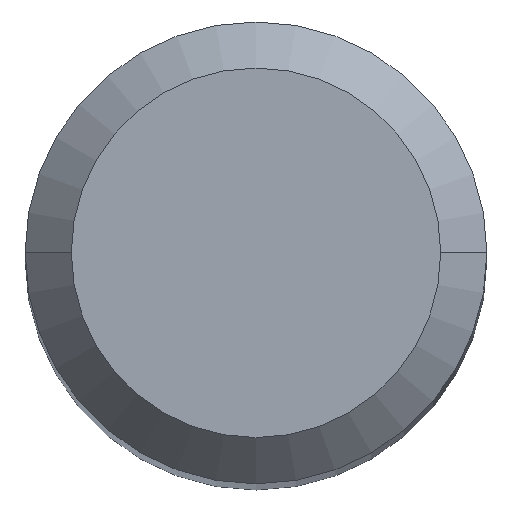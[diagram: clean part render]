
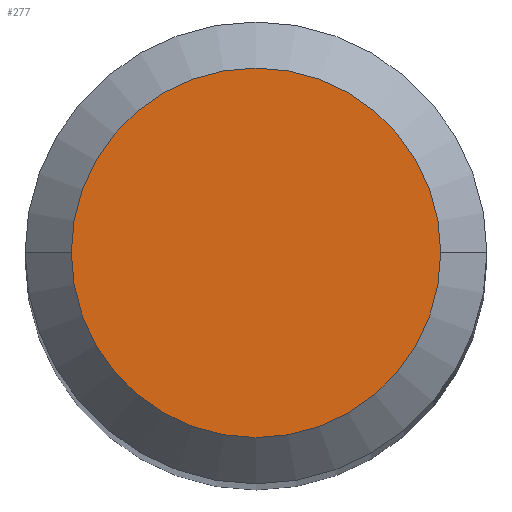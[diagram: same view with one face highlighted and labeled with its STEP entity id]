
A CAD part, top view. The second image highlights one B-rep face of the part: STEP entity #277.
In plain terms, the highlighted planar face has unit normal (0, 0, 1).
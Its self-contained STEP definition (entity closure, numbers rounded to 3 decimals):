
#1 = DIRECTION ( 'NONE',  ( -1., 0., 0. ) ) ;
#48 = DIRECTION ( 'NONE',  ( 1., 0., 0. ) ) ;
#51 = EDGE_CURVE ( 'NONE', #550, #267, #120, .T. ) ;
#53 = CARTESIAN_POINT ( 'NONE',  ( 1.6, 0., 0. ) ) ;
#62 = EDGE_LOOP ( 'NONE', ( #72, #607 ) ) ;
#72 = ORIENTED_EDGE ( 'NONE', *, *, #252, .F. ) ;
#75 = AXIS2_PLACEMENT_3D ( 'NONE', #282, #380, #48 ) ;
#91 = CARTESIAN_POINT ( 'NONE',  ( -1.6, 0., 0. ) ) ;
#120 = CIRCLE ( 'NONE', #257, 1.6 ) ;
#182 = DIRECTION ( 'NONE',  ( 0., 0., -1. ) ) ;
#189 = PLANE ( 'NONE',  #75 ) ;
#235 = CIRCLE ( 'NONE', #383, 1.6 ) ;
#252 = EDGE_CURVE ( 'NONE', #267, #550, #235, .T. ) ;
#257 = AXIS2_PLACEMENT_3D ( 'NONE', #273, #182, #616 ) ;
#267 = VERTEX_POINT ( 'NONE', #91 ) ;
#273 = CARTESIAN_POINT ( 'NONE',  ( 0., 0., 0. ) ) ;
#277 = ADVANCED_FACE ( 'NONE', ( #480 ), #189, .T. ) ;
#282 = CARTESIAN_POINT ( 'NONE',  ( 0., 1.6, 0. ) ) ;
#285 = CARTESIAN_POINT ( 'NONE',  ( 0., 0., 0. ) ) ;
#380 = DIRECTION ( 'NONE',  ( 0., 0., 1. ) ) ;
#383 = AXIS2_PLACEMENT_3D ( 'NONE', #285, #428, #1 ) ;
#428 = DIRECTION ( 'NONE',  ( 0., 0., -1. ) ) ;
#480 = FACE_OUTER_BOUND ( 'NONE', #62, .T. ) ;
#550 = VERTEX_POINT ( 'NONE', #53 ) ;
#607 = ORIENTED_EDGE ( 'NONE', *, *, #51, .F. ) ;
#616 = DIRECTION ( 'NONE',  ( -1., 0., 0. ) ) ;
